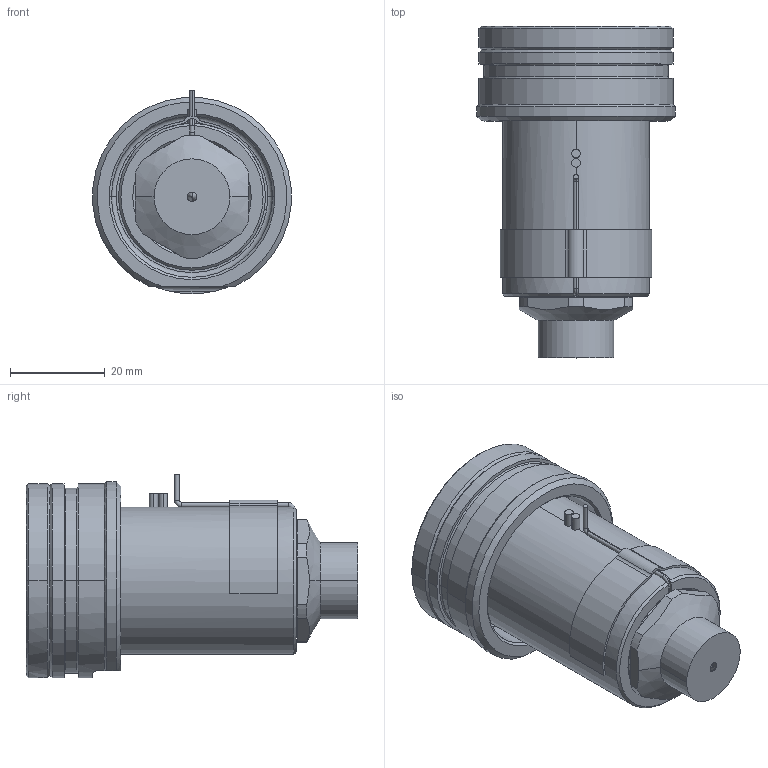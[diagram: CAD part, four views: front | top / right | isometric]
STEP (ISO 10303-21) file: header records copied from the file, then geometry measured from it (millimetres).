
FILE_DESCRIPTION((''),'2;1');
FILE_NAME('EO12_PG-FB_STD_050_SW','2024-02-19T11:36:04',('sundharh'),(''),'CREO PARAMETRIC BY PTC INC, 2023154','CREO PARAMETRIC BY PTC INC, 2023154','');
FILE_SCHEMA(('CONFIG_CONTROL_DESIGN'));
Length unit declared in the file: millimetre
Products named in the file (1): EO12_PG-FB_STD_050_SW
Bounding box: 41.85 x 70 x 43 mm (x, y, z)
Volume: 49367.1 mm3; surface area: 17478.7 mm2
Topology: 2 solids, 3 shells, 218 faces, 583 edges, 359 vertices
Faces by surface type: cylinder 82, plane 60, cone 43, torus 27, sphere 3, bspline 3
Entity records: 7824 total; most frequent: CARTESIAN_POINT 2253, DIRECTION 1227, ORIENTED_EDGE 1158, EDGE_CURVE 579, AXIS2_PLACEMENT_3D 516, VERTEX_POINT 359, CIRCLE 301, EDGE_LOOP 236
